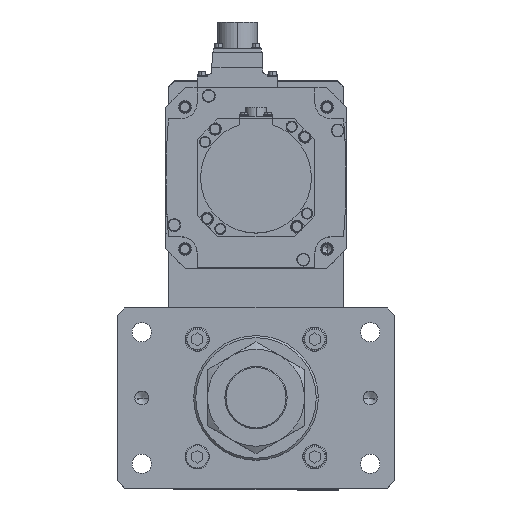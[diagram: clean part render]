
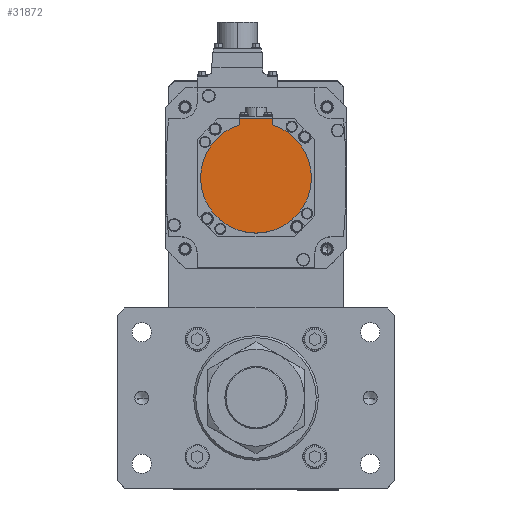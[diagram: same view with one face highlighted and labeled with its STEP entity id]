
A CAD part, top view. The second image highlights one B-rep face of the part: STEP entity #31872.
In plain terms, the highlighted planar face has unit normal (0, 0, 1) as drawn and (0, 0, -1) by its records, which use the part's own axes.
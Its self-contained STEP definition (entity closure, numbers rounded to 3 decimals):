
#13 = VECTOR ( 'NONE', #34537, 1000. ) ;
#781 = EDGE_CURVE ( 'NONE', #8977, #2347, #9571, .T. ) ;
#1103 = CARTESIAN_POINT ( 'NONE',  ( -40., 0., -146.5 ) ) ;
#1158 = CARTESIAN_POINT ( 'NONE',  ( 12., -1.249, -146.5 ) ) ;
#1467 = CARTESIAN_POINT ( 'NONE',  ( -12., -42.5, -146.5 ) ) ;
#1952 = VERTEX_POINT ( 'NONE', #7912 ) ;
#2038 = CIRCLE ( 'NONE', #30698, 40. ) ;
#2347 = VERTEX_POINT ( 'NONE', #15467 ) ;
#3054 = VERTEX_POINT ( 'NONE', #8248 ) ;
#3490 = EDGE_LOOP ( 'NONE', ( #4640, #22774, #18201, #22196, #34593, #21119 ) ) ;
#3669 = AXIS2_PLACEMENT_3D ( 'NONE', #12938, #15507, #34204 ) ;
#3794 = VERTEX_POINT ( 'NONE', #1103 ) ;
#4640 = ORIENTED_EDGE ( 'NONE', *, *, #781, .T. ) ;
#5872 = CIRCLE ( 'NONE', #17708, 40. ) ;
#6649 = CARTESIAN_POINT ( 'NONE',  ( -12., -40.329, -146.5 ) ) ;
#6858 = VERTEX_POINT ( 'NONE', #12218 ) ;
#7243 = VECTOR ( 'NONE', #14577, 1000. ) ;
#7912 = CARTESIAN_POINT ( 'NONE',  ( 12., -42.5, -146.5 ) ) ;
#8248 = CARTESIAN_POINT ( 'NONE',  ( 12., -38.158, -146.5 ) ) ;
#8977 = VERTEX_POINT ( 'NONE', #1467 ) ;
#9571 = LINE ( 'NONE', #6649, #24600 ) ;
#10004 = DIRECTION ( 'NONE',  ( 1., 0., 0. ) ) ;
#10430 = AXIS2_PLACEMENT_3D ( 'NONE', #34472, #20677, #28845 ) ;
#12218 = CARTESIAN_POINT ( 'NONE',  ( 40., 0., -146.5 ) ) ;
#12938 = CARTESIAN_POINT ( 'NONE',  ( 0., 0., -146.5 ) ) ;
#14298 = FACE_OUTER_BOUND ( 'NONE', #3490, .T. ) ;
#14577 = DIRECTION ( 'NONE',  ( 0., 1., 0. ) ) ;
#15467 = CARTESIAN_POINT ( 'NONE',  ( -12., -38.158, -146.5 ) ) ;
#15507 = DIRECTION ( 'NONE',  ( 0., 0., 1. ) ) ;
#15933 = DIRECTION ( 'NONE',  ( 0., 0., 1. ) ) ;
#16194 = CARTESIAN_POINT ( 'NONE',  ( 0., -42.5, -146.5 ) ) ;
#16498 = EDGE_CURVE ( 'NONE', #1952, #3054, #29359, .T. ) ;
#17708 = AXIS2_PLACEMENT_3D ( 'NONE', #18172, #23550, #10004 ) ;
#18172 = CARTESIAN_POINT ( 'NONE',  ( 0., 0., -146.5 ) ) ;
#18201 = ORIENTED_EDGE ( 'NONE', *, *, #18690, .F. ) ;
#18386 = DIRECTION ( 'NONE',  ( 1., 0., 0. ) ) ;
#18690 = EDGE_CURVE ( 'NONE', #6858, #3794, #5872, .T. ) ;
#18902 = EDGE_CURVE ( 'NONE', #1952, #8977, #31314, .T. ) ;
#19236 = CIRCLE ( 'NONE', #3669, 40. ) ;
#20677 = DIRECTION ( 'NONE',  ( 0., 0., 1. ) ) ;
#21119 = ORIENTED_EDGE ( 'NONE', *, *, #18902, .T. ) ;
#22196 = ORIENTED_EDGE ( 'NONE', *, *, #27811, .F. ) ;
#22774 = ORIENTED_EDGE ( 'NONE', *, *, #27416, .F. ) ;
#23550 = DIRECTION ( 'NONE',  ( 0., 0., 1. ) ) ;
#23717 = PLANE ( 'NONE',  #10430 ) ;
#24600 = VECTOR ( 'NONE', #30123, 1000. ) ;
#27416 = EDGE_CURVE ( 'NONE', #3794, #2347, #19236, .T. ) ;
#27811 = EDGE_CURVE ( 'NONE', #3054, #6858, #2038, .T. ) ;
#28845 = DIRECTION ( 'NONE',  ( 1., 0., 0. ) ) ;
#29337 = CARTESIAN_POINT ( 'NONE',  ( 0., 0., -146.5 ) ) ;
#29359 = LINE ( 'NONE', #1158, #7243 ) ;
#30123 = DIRECTION ( 'NONE',  ( 0., 1., 0. ) ) ;
#30698 = AXIS2_PLACEMENT_3D ( 'NONE', #29337, #15933, #18386 ) ;
#31314 = LINE ( 'NONE', #16194, #13 ) ;
#31872 = ADVANCED_FACE ( 'NONE', ( #14298 ), #23717, .F. ) ;
#34204 = DIRECTION ( 'NONE',  ( 1., 0., 0. ) ) ;
#34472 = CARTESIAN_POINT ( 'NONE',  ( 0., -1.249, -146.5 ) ) ;
#34537 = DIRECTION ( 'NONE',  ( -1., 0., 0. ) ) ;
#34593 = ORIENTED_EDGE ( 'NONE', *, *, #16498, .F. ) ;
